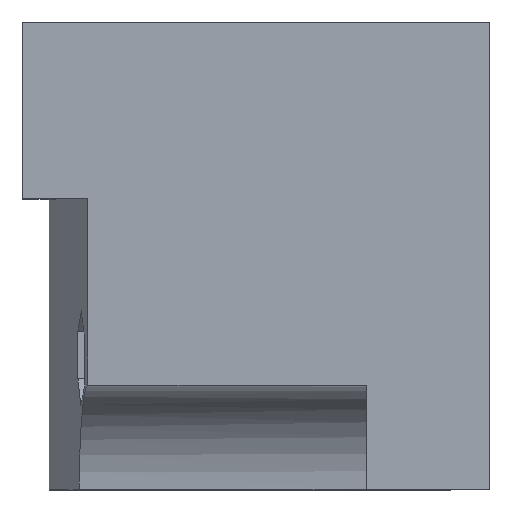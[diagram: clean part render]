
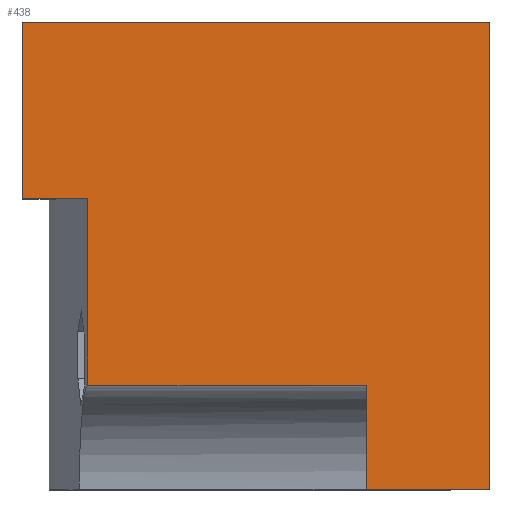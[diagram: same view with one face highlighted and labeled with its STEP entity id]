
A CAD part, top view. The second image highlights one B-rep face of the part: STEP entity #438.
In plain terms, the highlighted planar face has unit normal (0, 0, 1).
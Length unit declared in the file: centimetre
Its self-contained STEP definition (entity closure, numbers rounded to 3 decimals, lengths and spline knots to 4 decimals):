
#10 = CARTESIAN_POINT ( 'NONE',  ( 0., 1000., 1000. ) ) ;
#22 = PLANE ( 'NONE',  #716 ) ;
#52 = DIRECTION ( 'NONE',  ( -1., 0., 0. ) ) ;
#57 = ORIENTED_EDGE ( 'NONE', *, *, #605, .T. ) ;
#105 = DIRECTION ( 'NONE',  ( -1., 0., 0. ) ) ;
#117 = DIRECTION ( 'NONE',  ( 1., 0., 0. ) ) ;
#118 = CARTESIAN_POINT ( 'NONE',  ( 735.7753, 0., 1000. ) ) ;
#123 = LINE ( 'NONE', #1047, #654 ) ;
#139 = VERTEX_POINT ( 'NONE', #224 ) ;
#166 = CARTESIAN_POINT ( 'NONE',  ( 1000., 0., 1000. ) ) ;
#182 = EDGE_CURVE ( 'NONE', #697, #597, #960, .T. ) ;
#219 = ORIENTED_EDGE ( 'NONE', *, *, #533, .T. ) ;
#224 = CARTESIAN_POINT ( 'NONE',  ( 0., 622.577, 1000. ) ) ;
#236 = EDGE_LOOP ( 'NONE', ( #352, #308, #57, #219, #350, #375, #271, #447 ) ) ;
#271 = ORIENTED_EDGE ( 'NONE', *, *, #823, .F. ) ;
#278 = VECTOR ( 'NONE', #346, 100. ) ;
#294 = DIRECTION ( 'NONE',  ( 0., 0., 1. ) ) ;
#308 = ORIENTED_EDGE ( 'NONE', *, *, #182, .T. ) ;
#340 = VECTOR ( 'NONE', #492, 100. ) ;
#346 = DIRECTION ( 'NONE',  ( 0., -1., 0. ) ) ;
#350 = ORIENTED_EDGE ( 'NONE', *, *, #558, .T. ) ;
#352 = ORIENTED_EDGE ( 'NONE', *, *, #1112, .F. ) ;
#353 = CARTESIAN_POINT ( 'NONE',  ( 735.7753, 0., 1000. ) ) ;
#375 = ORIENTED_EDGE ( 'NONE', *, *, #908, .T. ) ;
#402 = VECTOR ( 'NONE', #926, 100. ) ;
#429 = VECTOR ( 'NONE', #634, 100. ) ;
#438 = ADVANCED_FACE ( 'NONE', ( #778 ), #22, .T. ) ;
#447 = ORIENTED_EDGE ( 'NONE', *, *, #895, .T. ) ;
#448 = LINE ( 'NONE', #561, #429 ) ;
#492 = DIRECTION ( 'NONE',  ( 0., -1., 0. ) ) ;
#514 = LINE ( 'NONE', #894, #878 ) ;
#533 = EDGE_CURVE ( 'NONE', #571, #1060, #834, .T. ) ;
#558 = EDGE_CURVE ( 'NONE', #1060, #757, #825, .T. ) ;
#561 = CARTESIAN_POINT ( 'NONE',  ( 0., 0., 1000. ) ) ;
#571 = VERTEX_POINT ( 'NONE', #166 ) ;
#597 = VERTEX_POINT ( 'NONE', #353 ) ;
#605 = EDGE_CURVE ( 'NONE', #597, #571, #448, .T. ) ;
#620 = LINE ( 'NONE', #1080, #278 ) ;
#634 = DIRECTION ( 'NONE',  ( 1., 0., 0. ) ) ;
#654 = VECTOR ( 'NONE', #105, 100. ) ;
#697 = VERTEX_POINT ( 'NONE', #769 ) ;
#716 = AXIS2_PLACEMENT_3D ( 'NONE', #943, #294, #117 ) ;
#757 = VERTEX_POINT ( 'NONE', #10 ) ;
#769 = CARTESIAN_POINT ( 'NONE',  ( 735.7753, 222.7592, 1000. ) ) ;
#778 = FACE_OUTER_BOUND ( 'NONE', #236, .T. ) ;
#813 = DIRECTION ( 'NONE',  ( 0., -1., 0. ) ) ;
#822 = CARTESIAN_POINT ( 'NONE',  ( 140.2437, 222.7592, 1000. ) ) ;
#823 = EDGE_CURVE ( 'NONE', #887, #139, #514, .T. ) ;
#825 = LINE ( 'NONE', #1199, #402 ) ;
#834 = LINE ( 'NONE', #1107, #922 ) ;
#878 = VECTOR ( 'NONE', #52, 100. ) ;
#887 = VERTEX_POINT ( 'NONE', #1071 ) ;
#894 = CARTESIAN_POINT ( 'NONE',  ( 0., 622.577, 1000. ) ) ;
#895 = EDGE_CURVE ( 'NONE', #887, #1198, #989, .T. ) ;
#908 = EDGE_CURVE ( 'NONE', #757, #139, #620, .T. ) ;
#922 = VECTOR ( 'NONE', #1206, 100. ) ;
#926 = DIRECTION ( 'NONE',  ( -1., 0., 0. ) ) ;
#943 = CARTESIAN_POINT ( 'NONE',  ( 0., 0., 1000. ) ) ;
#960 = LINE ( 'NONE', #118, #340 ) ;
#989 = LINE ( 'NONE', #1174, #1203 ) ;
#1047 = CARTESIAN_POINT ( 'NONE',  ( 735.7753, 222.7592, 1000. ) ) ;
#1057 = CARTESIAN_POINT ( 'NONE',  ( 1000., 1000., 1000. ) ) ;
#1060 = VERTEX_POINT ( 'NONE', #1057 ) ;
#1071 = CARTESIAN_POINT ( 'NONE',  ( 140.2437, 622.577, 1000. ) ) ;
#1080 = CARTESIAN_POINT ( 'NONE',  ( 0., 1000., 1000. ) ) ;
#1107 = CARTESIAN_POINT ( 'NONE',  ( 1000., 1000., 1000. ) ) ;
#1112 = EDGE_CURVE ( 'NONE', #697, #1198, #123, .T. ) ;
#1174 = CARTESIAN_POINT ( 'NONE',  ( 140.2437, 622.577, 1000. ) ) ;
#1198 = VERTEX_POINT ( 'NONE', #822 ) ;
#1199 = CARTESIAN_POINT ( 'NONE',  ( 0., 1000., 1000. ) ) ;
#1203 = VECTOR ( 'NONE', #813, 100. ) ;
#1206 = DIRECTION ( 'NONE',  ( 0., 1., 0. ) ) ;
